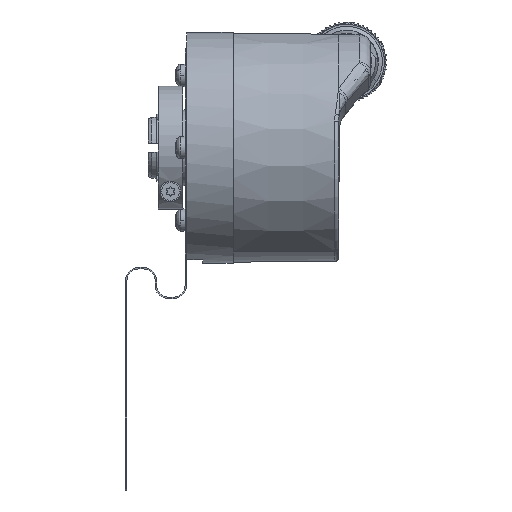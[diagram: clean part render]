
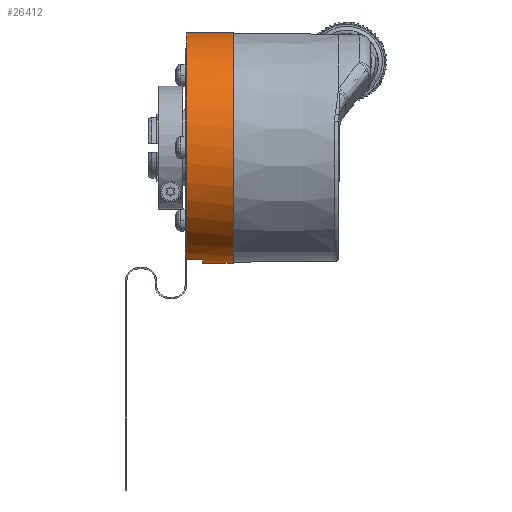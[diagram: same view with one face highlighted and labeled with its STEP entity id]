
A CAD part, front view. The second image highlights one B-rep face of the part: STEP entity #26412.
In plain terms, the highlighted cylindrical face has radius 29 mm (diameter 58 mm), a partial arc.
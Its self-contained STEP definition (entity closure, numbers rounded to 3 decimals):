
#471 = AXIS2_PLACEMENT_3D ( 'NONE', #5875, #35659, #51437 ) ;
#2054 = EDGE_CURVE ( 'NONE', #4037, #9131, #2172, .T. ) ;
#2172 = CIRCLE ( 'NONE', #471, 29. ) ;
#2473 = CIRCLE ( 'NONE', #32793, 29. ) ;
#3530 = CYLINDRICAL_SURFACE ( 'NONE', #27744, 29. ) ;
#4032 = EDGE_CURVE ( 'NONE', #4037, #51609, #35082, .T. ) ;
#4037 = VERTEX_POINT ( 'NONE', #31028 ) ;
#5875 = CARTESIAN_POINT ( 'NONE',  ( 0.378, 25.423, 0. ) ) ;
#6464 = CARTESIAN_POINT ( 'NONE',  ( 8.068, 25.423, 29. ) ) ;
#7808 = DIRECTION ( 'NONE',  ( 1., 0., 0. ) ) ;
#9131 = VERTEX_POINT ( 'NONE', #37508 ) ;
#9753 = DIRECTION ( 'NONE',  ( 0., 0., -1. ) ) ;
#10754 = CARTESIAN_POINT ( 'NONE',  ( -3.622, 18.423, -28.142 ) ) ;
#11107 = DIRECTION ( 'NONE',  ( 1., 0., 0. ) ) ;
#11388 = FACE_OUTER_BOUND ( 'NONE', #43049, .T. ) ;
#12020 = CARTESIAN_POINT ( 'NONE',  ( 8.068, 25.423, -29. ) ) ;
#12417 = DIRECTION ( 'NONE',  ( 1., 0., 0. ) ) ;
#12834 = ORIENTED_EDGE ( 'NONE', *, *, #47549, .T. ) ;
#12947 = LINE ( 'NONE', #41667, #40522 ) ;
#13290 = DIRECTION ( 'NONE',  ( 1., 0., 0. ) ) ;
#13764 = EDGE_CURVE ( 'NONE', #19984, #51609, #2473, .T. ) ;
#14494 = DIRECTION ( 'NONE',  ( -1., 0., 0. ) ) ;
#15121 = ORIENTED_EDGE ( 'NONE', *, *, #4032, .F. ) ;
#17902 = ORIENTED_EDGE ( 'NONE', *, *, #38882, .F. ) ;
#18139 = CARTESIAN_POINT ( 'NONE',  ( -3.622, 25.423, 0. ) ) ;
#19223 = CARTESIAN_POINT ( 'NONE',  ( 8.068, 25.423, 0. ) ) ;
#19984 = VERTEX_POINT ( 'NONE', #46154 ) ;
#20134 = VECTOR ( 'NONE', #7808, 1000. ) ;
#22830 = ORIENTED_EDGE ( 'NONE', *, *, #2054, .T. ) ;
#23619 = AXIS2_PLACEMENT_3D ( 'NONE', #52887, #11107, #52617 ) ;
#23835 = DIRECTION ( 'NONE',  ( 1., 0., 0. ) ) ;
#26412 = ADVANCED_FACE ( 'NONE', ( #11388 ), #3530, .T. ) ;
#26696 = ORIENTED_EDGE ( 'NONE', *, *, #13764, .T. ) ;
#27744 = AXIS2_PLACEMENT_3D ( 'NONE', #19223, #23835, #36053 ) ;
#28407 = CARTESIAN_POINT ( 'NONE',  ( 8.068, 25.423, 29. ) ) ;
#30962 = EDGE_CURVE ( 'NONE', #44726, #36523, #32328, .T. ) ;
#31028 = CARTESIAN_POINT ( 'NONE',  ( 0.378, 18.423, -28.142 ) ) ;
#32328 = CIRCLE ( 'NONE', #23619, 29. ) ;
#32793 = AXIS2_PLACEMENT_3D ( 'NONE', #18139, #13290, #9753 ) ;
#35082 = LINE ( 'NONE', #51659, #36035 ) ;
#35092 = ORIENTED_EDGE ( 'NONE', *, *, #30962, .F. ) ;
#35659 = DIRECTION ( 'NONE',  ( 1., 0., 0. ) ) ;
#36035 = VECTOR ( 'NONE', #14494, 1000. ) ;
#36053 = DIRECTION ( 'NONE',  ( 0., 0., -1. ) ) ;
#36523 = VERTEX_POINT ( 'NONE', #12020 ) ;
#37508 = CARTESIAN_POINT ( 'NONE',  ( 0.378, 25.423, -29. ) ) ;
#38882 = EDGE_CURVE ( 'NONE', #19984, #44726, #41399, .T. ) ;
#40522 = VECTOR ( 'NONE', #12417, 1000. ) ;
#41399 = LINE ( 'NONE', #28407, #20134 ) ;
#41667 = CARTESIAN_POINT ( 'NONE',  ( 8.068, 25.423, -29. ) ) ;
#43049 = EDGE_LOOP ( 'NONE', ( #17902, #26696, #15121, #22830, #12834, #35092 ) ) ;
#44726 = VERTEX_POINT ( 'NONE', #6464 ) ;
#46154 = CARTESIAN_POINT ( 'NONE',  ( -3.622, 25.423, 29. ) ) ;
#47549 = EDGE_CURVE ( 'NONE', #9131, #36523, #12947, .T. ) ;
#51437 = DIRECTION ( 'NONE',  ( 0., 0., 1. ) ) ;
#51609 = VERTEX_POINT ( 'NONE', #10754 ) ;
#51659 = CARTESIAN_POINT ( 'NONE',  ( 8.068, 18.423, -28.142 ) ) ;
#52617 = DIRECTION ( 'NONE',  ( 0., 0., -1. ) ) ;
#52887 = CARTESIAN_POINT ( 'NONE',  ( 8.068, 25.423, 0. ) ) ;
